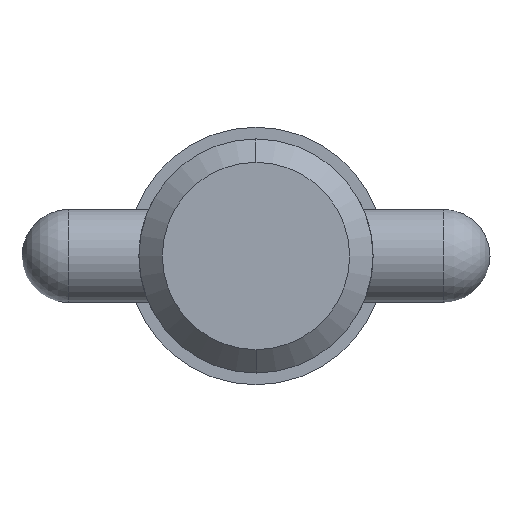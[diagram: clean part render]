
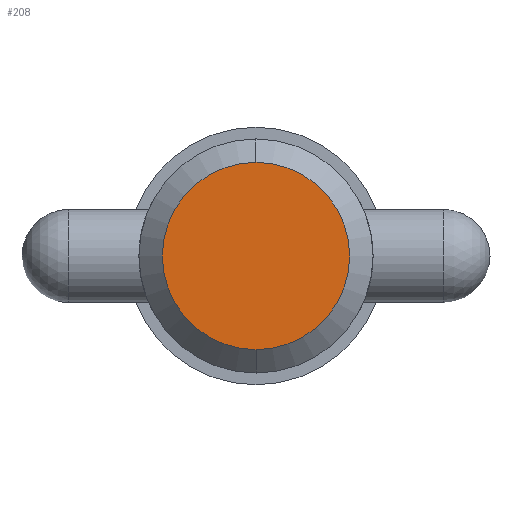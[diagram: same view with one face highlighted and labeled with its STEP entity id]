
A CAD part, left-side view. The second image highlights one B-rep face of the part: STEP entity #208.
In plain terms, the highlighted planar face has unit normal (-1, 0, 0).
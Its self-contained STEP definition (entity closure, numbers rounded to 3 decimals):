
#5 = DIRECTION ( 'NONE',  ( -1., 0., 0. ) ) ;
#16 = CARTESIAN_POINT ( 'NONE',  ( 0., 0., 6.352 ) ) ;
#22 = ORIENTED_EDGE ( 'NONE', *, *, #666, .F. ) ;
#83 = CARTESIAN_POINT ( 'NONE',  ( 0., 0., 0. ) ) ;
#88 = DIRECTION ( 'NONE',  ( 1., 0., 0. ) ) ;
#194 = VERTEX_POINT ( 'NONE', #16 ) ;
#199 = EDGE_LOOP ( 'NONE', ( #22, #794 ) ) ;
#208 = ADVANCED_FACE ( 'NONE', ( #583 ), #830, .T. ) ;
#296 = CIRCLE ( 'NONE', #797, 6.352 ) ;
#462 = VERTEX_POINT ( 'NONE', #774 ) ;
#499 = DIRECTION ( 'NONE',  ( 0., 0., 1. ) ) ;
#552 = AXIS2_PLACEMENT_3D ( 'NONE', #778, #5, #499 ) ;
#583 = FACE_OUTER_BOUND ( 'NONE', #199, .T. ) ;
#588 = DIRECTION ( 'NONE',  ( 0., 0., -1. ) ) ;
#666 = EDGE_CURVE ( 'NONE', #462, #194, #296, .T. ) ;
#737 = DIRECTION ( 'NONE',  ( 0., 0., -1. ) ) ;
#774 = CARTESIAN_POINT ( 'NONE',  ( 0., 0., -6.352 ) ) ;
#778 = CARTESIAN_POINT ( 'NONE',  ( 0., 0., 0. ) ) ;
#783 = CIRCLE ( 'NONE', #948, 6.352 ) ;
#794 = ORIENTED_EDGE ( 'NONE', *, *, #857, .F. ) ;
#797 = AXIS2_PLACEMENT_3D ( 'NONE', #83, #88, #737 ) ;
#830 = PLANE ( 'NONE',  #552 ) ;
#846 = DIRECTION ( 'NONE',  ( 1., 0., 0. ) ) ;
#857 = EDGE_CURVE ( 'NONE', #194, #462, #783, .T. ) ;
#948 = AXIS2_PLACEMENT_3D ( 'NONE', #995, #846, #588 ) ;
#995 = CARTESIAN_POINT ( 'NONE',  ( 0., 0., 0. ) ) ;
